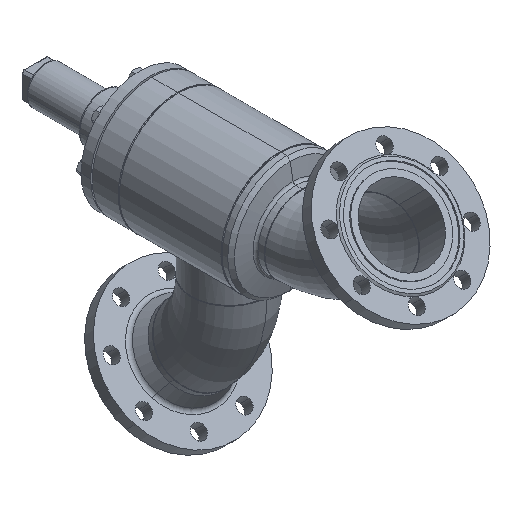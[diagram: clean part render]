
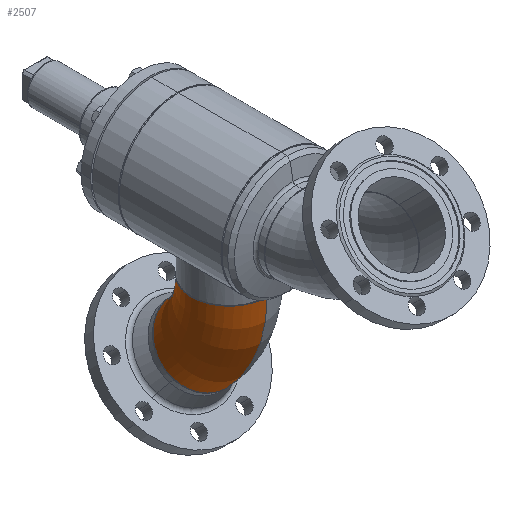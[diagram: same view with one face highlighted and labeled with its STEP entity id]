
A CAD part, isometric view. The second image highlights one B-rep face of the part: STEP entity #2507.
In plain terms, the highlighted toroidal (fillet/blend) face has major radius 190 mm and minor radius 69.85 mm.
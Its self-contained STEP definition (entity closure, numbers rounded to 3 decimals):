
#71 = CIRCLE ( 'NONE', #72, 69.85 ) ;
#72 = AXIS2_PLACEMENT_3D ( 'NONE', #73, #74, #75 ) ;
#73 = CARTESIAN_POINT ( 'NONE',  ( 0., 0., 0. ) ) ;
#74 = DIRECTION ( 'NONE',  ( 1., 0., 0. ) ) ;
#75 = DIRECTION ( 'NONE',  ( 0., 0., -1. ) ) ;
#389 = ORIENTED_EDGE ( 'NONE', *, *, #6680, .T. ) ;
#824 = CIRCLE ( 'NONE', #825, 120.15 ) ;
#825 = AXIS2_PLACEMENT_3D ( 'NONE', #826, #827, #828 ) ;
#826 = CARTESIAN_POINT ( 'NONE',  ( 0., -190., 0. ) ) ;
#827 = DIRECTION ( 'NONE',  ( 0., 0., 1. ) ) ;
#828 = DIRECTION ( 'NONE',  ( 1., 0., 0. ) ) ;
#1451 = EDGE_CURVE ( 'NONE', #3490, #5927, #8479, .T. ) ;
#1826 = ORIENTED_EDGE ( 'NONE', *, *, #1451, .F. ) ;
#2342 = EDGE_LOOP ( 'NONE', ( #1826, #2804, #389, #5739 ) ) ;
#2507 = ADVANCED_FACE ( 'NONE', ( #9658 ), #9659, .T. ) ;
#2804 = ORIENTED_EDGE ( 'NONE', *, *, #3321, .T. ) ;
#3321 = EDGE_CURVE ( 'NONE', #3490, #6559, #10479, .T. ) ;
#3490 = VERTEX_POINT ( 'NONE', #10578 ) ;
#3583 = CARTESIAN_POINT ( 'NONE',  ( 0., -69.85, 0. ) ) ;
#3716 = CARTESIAN_POINT ( 'NONE',  ( 84.959, -105.041, 0. ) ) ;
#5739 = ORIENTED_EDGE ( 'NONE', *, *, #7168, .F. ) ;
#5927 = VERTEX_POINT ( 'NONE', #3716 ) ;
#6559 = VERTEX_POINT ( 'NONE', #10744 ) ;
#6680 = EDGE_CURVE ( 'NONE', #6559, #9943, #71, .T. ) ;
#7168 = EDGE_CURVE ( 'NONE', #5927, #9943, #824, .T. ) ;
#8479 = CIRCLE ( 'NONE', #8480, 69.85 ) ;
#8480 = AXIS2_PLACEMENT_3D ( 'NONE', #8481, #8482, #8483 ) ;
#8481 = CARTESIAN_POINT ( 'NONE',  ( 134.35, -55.65, 0. ) ) ;
#8482 = DIRECTION ( 'NONE',  ( 0.707, -0.707, 0. ) ) ;
#8483 = DIRECTION ( 'NONE',  ( 0., 0., -1. ) ) ;
#9658 = FACE_OUTER_BOUND ( 'NONE', #2342, .T. ) ;
#9659 = TOROIDAL_SURFACE ( 'NONE', #9660, 190., 69.85 ) ;
#9660 = AXIS2_PLACEMENT_3D ( 'NONE', #9661, #9662, #9663 ) ;
#9661 = CARTESIAN_POINT ( 'NONE',  ( 0., -190., 0. ) ) ;
#9662 = DIRECTION ( 'NONE',  ( 0., 0., 1. ) ) ;
#9663 = DIRECTION ( 'NONE',  ( 1., 0., 0. ) ) ;
#9943 = VERTEX_POINT ( 'NONE', #3583 ) ;
#10479 = CIRCLE ( 'NONE', #10480, 259.85 ) ;
#10480 = AXIS2_PLACEMENT_3D ( 'NONE', #10481, #10482, #10483 ) ;
#10481 = CARTESIAN_POINT ( 'NONE',  ( 0., -190., 0. ) ) ;
#10482 = DIRECTION ( 'NONE',  ( 0., 0., 1. ) ) ;
#10483 = DIRECTION ( 'NONE',  ( 1., 0., 0. ) ) ;
#10578 = CARTESIAN_POINT ( 'NONE',  ( 183.742, -6.258, 0. ) ) ;
#10744 = CARTESIAN_POINT ( 'NONE',  ( 0., 69.85, 0. ) ) ;
